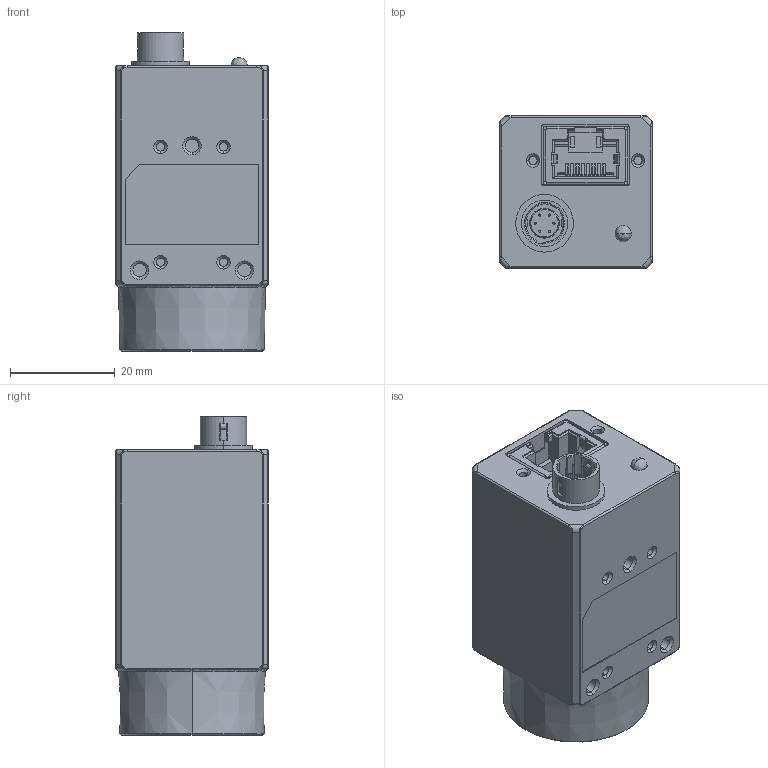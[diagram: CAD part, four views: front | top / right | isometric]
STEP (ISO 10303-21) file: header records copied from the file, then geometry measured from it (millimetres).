
FILE_DESCRIPTION((''),'2;1');
FILE_NAME('MV-600W-3D_2_1','2020-03-11T10:18:13',('wangyijun6'),(''),'CREO PARAMETRIC BY PTC INC, 2017260','CREO PARAMETRIC BY PTC INC, 2017260','');
FILE_SCHEMA(('CONFIG_CONTROL_DESIGN'));
Length unit declared in the file: millimetre
Products named in the file (1): MV-600W-3D_2_1
Bounding box: 29 x 29 x 60.81 mm (x, y, z)
Volume: 34024 mm3; surface area: 14298.7 mm2
Topology: 1 solids, 1 shells, 1196 faces, 3515 edges, 2292 vertices
Faces by surface type: plane 805, cylinder 322, bspline 36, cone 31, torus 2
Entity records: 41948 total; most frequent: CARTESIAN_POINT 10072, ORIENTED_EDGE 7030, DIRECTION 6217, EDGE_CURVE 3515, VECTOR 2541, LINE 2541, VERTEX_POINT 2292, AXIS2_PLACEMENT_3D 1838
